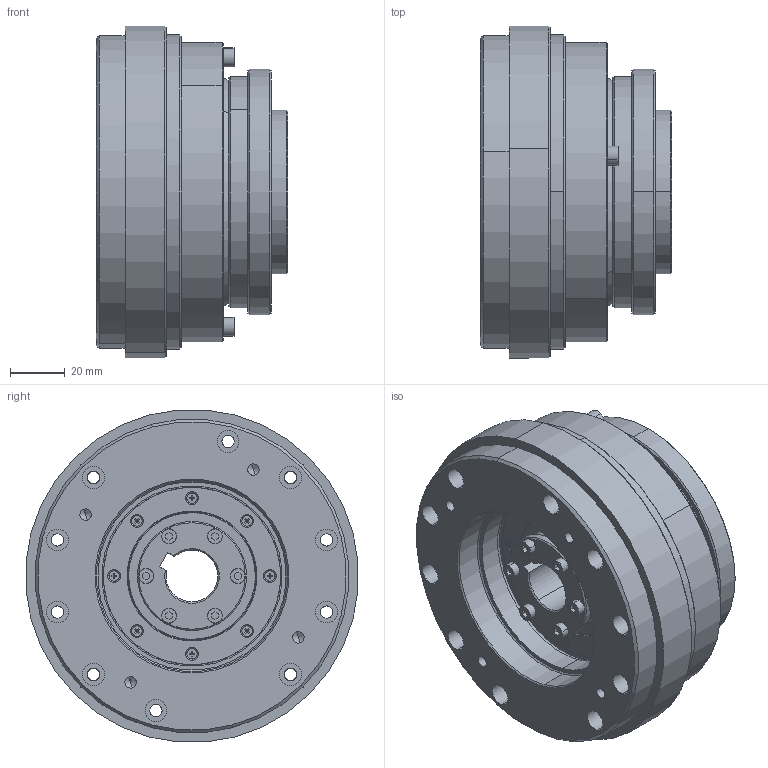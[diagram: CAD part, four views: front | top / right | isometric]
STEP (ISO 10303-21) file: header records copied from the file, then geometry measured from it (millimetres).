
FILE_DESCRIPTION (( 'STEP AP214' ), '1' );
FILE_NAME ('LHSG-25-XXX-RDP-19-40-70-90-M6.step', '2022-08-03T03:58:38', ( 'Sysceo.com' ), ( '' ), 'SwSTEP 2.0', 'SolidWorks 2020', '' );
FILE_SCHEMA (( 'AUTOMOTIVE_DESIGN' ));
Length unit declared in the file: millimetre
Products named in the file (1): LHSG-25-XXX-RDP-19-40-70-90-M6
Bounding box: 70 x 121.54 x 121.54 mm (x, y, z)
Volume: 437127.8 mm3; surface area: 222086.8 mm2
Topology: 93 solids, 93 shells, 1900 faces, 4450 edges, 2584 vertices
Faces by surface type: cylinder 643, plane 543, cone 382, sphere 192, torus 140
Entity records: 73782 total; most frequent: DIRECTION 9982, CARTESIAN_POINT 8759, ORIENTED_EDGE 8084, AXIS2_PLACEMENT_3D 4147, EDGE_CURVE 4042, VERTEX_POINT 2492, EDGE_LOOP 2326, CIRCLE 2246
